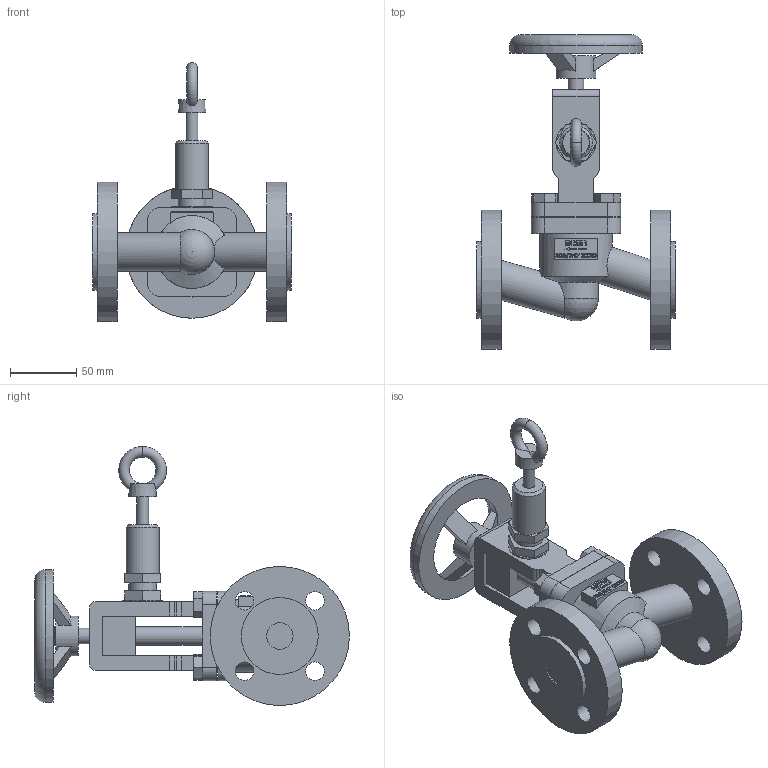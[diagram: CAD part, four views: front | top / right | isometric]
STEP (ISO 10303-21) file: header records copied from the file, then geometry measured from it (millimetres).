
FILE_DESCRIPTION(/* description */ (''),/* implementation_level */ '2;1');
FILE_NAME(/* name */ '100-247M-DN20-PN16.stp',/* time_stamp */ '2024-07-09T07:57:12+02:00',/* author */ ('roger.thijssen'),/* organization */ (''),/* preprocessor_version */ 'ST-DEVELOPER v20',/* originating_system */ 'Autodesk Inventor 2024',/* authorisation */ '');
FILE_SCHEMA (('AUTOMOTIVE_DESIGN { 1 0 10303 214 3 1 1 }'));
Length unit declared in the file: millimetre
Products named in the file (1): 100-247M-DN20-PN16
Bounding box: 150 x 237.5 x 195.5 mm (x, y, z)
Volume: 736648.7 mm3; surface area: 129359.3 mm2
Topology: 1 solids, 1 shells, 388 faces, 1031 edges, 682 vertices
Faces by surface type: plane 248, cylinder 68, bspline 64, cone 4, torus 3, sphere 1
Full cylindrical faces by diameter (mm): 9 x1, 12 x1, 14 x9, 20 x2, 21 x1, 25 x1, 29 x2, 30 x2, 50 x1, 55 x1, 58 x2, 100 x1, 105 x2
Entity records: 13256 total; most frequent: CARTESIAN_POINT 3363, ORIENTED_EDGE 2060, DIRECTION 1708, EDGE_CURVE 1030, LINE 698, VECTOR 698, VERTEX_POINT 682, AXIS2_PLACEMENT_3D 505
